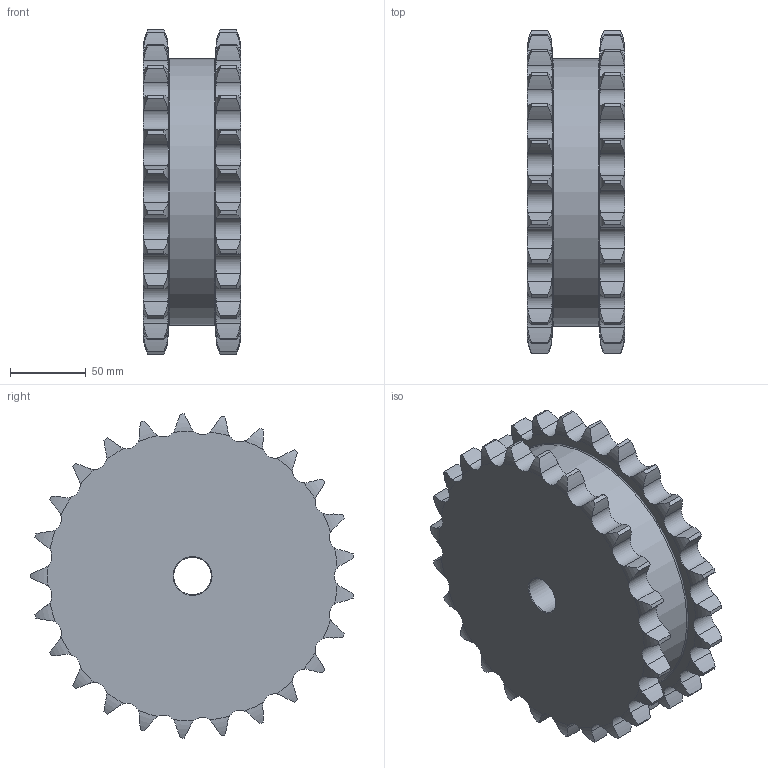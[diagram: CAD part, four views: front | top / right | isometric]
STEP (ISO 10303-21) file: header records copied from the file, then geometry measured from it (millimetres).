
FILE_DESCRIPTION(/* description */ (''),/* implementation_level */ '2;1');
FILE_NAME(/* name */ 'C:\Users\stagistaCAD\Desktop\23225025.stp',/* time_stamp */ '2018-06-25T12:16:57+02:00',/* author */ ('stagistacad'),/* organization */ (''),/* preprocessor_version */ 'ST-DEVELOPER v15.6',/* originating_system */ 'Autodesk Inventor 2015',/* authorisation */ '');
FILE_SCHEMA (('AUTOMOTIVE_DESIGN { 1 0 10303 214 3 1 1 }'));
Length unit declared in the file: millimetre
Products named in the file (1): 23225025
Bounding box: 64 x 213.09 x 213.5 mm (x, y, z)
Volume: 1720086.3 mm3; surface area: 123800.2 mm2
Topology: 1 solids, 1 shells, 310 faces, 914 edges, 608 vertices
Faces by surface type: cylinder 202, torus 102, plane 4, cone 2
Full cylindrical faces by diameter (mm): 24.7 x1, 176 x1
Entity records: 11508 total; most frequent: CARTESIAN_POINT 3723, ORIENTED_EDGE 1816, DIRECTION 1438, EDGE_CURVE 908, AXIS2_PLACEMENT_3D 619, VERTEX_POINT 608, B_SPLINE_CURVE_WITH_KNOTS 400, EDGE_LOOP 320
